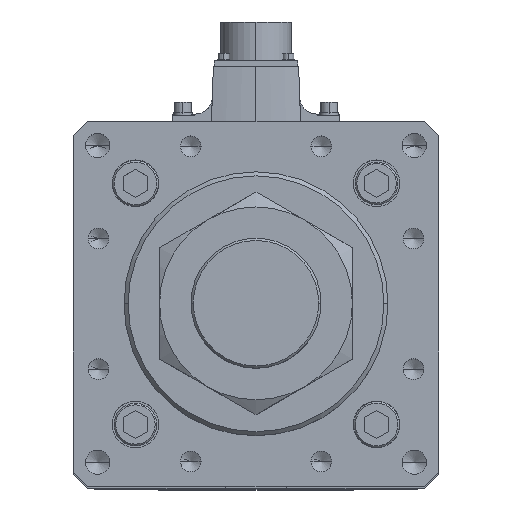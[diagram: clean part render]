
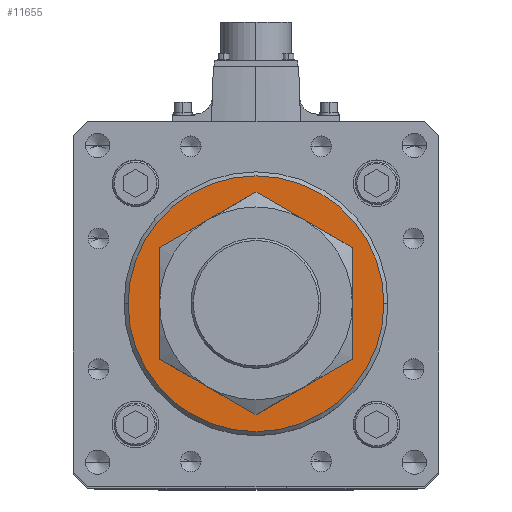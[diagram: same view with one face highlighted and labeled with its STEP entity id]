
A CAD part, top view. The second image highlights one B-rep face of the part: STEP entity #11655.
In plain terms, the highlighted planar face has unit normal (0, 0, 1).
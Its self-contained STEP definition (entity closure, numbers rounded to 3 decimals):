
#136 = CARTESIAN_POINT ( 'NONE',  ( 0., 0., 562. ) ) ;
#196 = ORIENTED_EDGE ( 'NONE', *, *, #28842, .T. ) ;
#221 = CIRCLE ( 'NONE', #55228, 63. ) ;
#3264 = DIRECTION ( 'NONE',  ( 0., 0., 1. ) ) ;
#4342 = ORIENTED_EDGE ( 'NONE', *, *, #46419, .T. ) ;
#5028 = DIRECTION ( 'NONE',  ( 1., 0., 0. ) ) ;
#5589 = DIRECTION ( 'NONE',  ( 0., 0., -1. ) ) ;
#5869 = EDGE_LOOP ( 'NONE', ( #12614, #53184 ) ) ;
#6750 = VERTEX_POINT ( 'NONE', #19655 ) ;
#7751 = CARTESIAN_POINT ( 'NONE',  ( 0., 0., 562. ) ) ;
#8780 = AXIS2_PLACEMENT_3D ( 'NONE', #7751, #3264, #11891 ) ;
#10388 = CIRCLE ( 'NONE', #18129, 40.5 ) ;
#11655 = ADVANCED_FACE ( 'NONE', ( #35168, #43806 ), #43227, .T. ) ;
#11891 = DIRECTION ( 'NONE',  ( 1., 0., 0. ) ) ;
#12614 = ORIENTED_EDGE ( 'NONE', *, *, #31037, .T. ) ;
#14084 = CIRCLE ( 'NONE', #44597, 40.5 ) ;
#17765 = CARTESIAN_POINT ( 'NONE',  ( 0., 0., 562. ) ) ;
#18129 = AXIS2_PLACEMENT_3D ( 'NONE', #39648, #5589, #22955 ) ;
#18323 = CARTESIAN_POINT ( 'NONE',  ( 0., 0., 562. ) ) ;
#19655 = CARTESIAN_POINT ( 'NONE',  ( -63., 0., 562. ) ) ;
#20296 = CARTESIAN_POINT ( 'NONE',  ( -40.5, 0., 562. ) ) ;
#21391 = CARTESIAN_POINT ( 'NONE',  ( 40.5, 0., 562. ) ) ;
#22836 = VERTEX_POINT ( 'NONE', #23837 ) ;
#22955 = DIRECTION ( 'NONE',  ( 1., 0., 0. ) ) ;
#23837 = CARTESIAN_POINT ( 'NONE',  ( 63., 0., 562. ) ) ;
#24325 = VERTEX_POINT ( 'NONE', #20296 ) ;
#24947 = CIRCLE ( 'NONE', #8780, 63. ) ;
#26285 = DIRECTION ( 'NONE',  ( 0., 0., 1. ) ) ;
#27041 = DIRECTION ( 'NONE',  ( 0., 0., 1. ) ) ;
#28311 = EDGE_CURVE ( 'NONE', #24325, #29458, #10388, .T. ) ;
#28842 = EDGE_CURVE ( 'NONE', #22836, #6750, #221, .T. ) ;
#29458 = VERTEX_POINT ( 'NONE', #21391 ) ;
#31037 = EDGE_CURVE ( 'NONE', #29458, #24325, #14084, .T. ) ;
#31384 = EDGE_LOOP ( 'NONE', ( #4342, #196 ) ) ;
#33372 = DIRECTION ( 'NONE',  ( 0., 0., -1. ) ) ;
#35168 = FACE_BOUND ( 'NONE', #5869, .T. ) ;
#39648 = CARTESIAN_POINT ( 'NONE',  ( 0., 0., 562. ) ) ;
#40022 = DIRECTION ( 'NONE',  ( 1., 0., 0. ) ) ;
#43227 = PLANE ( 'NONE',  #43447 ) ;
#43447 = AXIS2_PLACEMENT_3D ( 'NONE', #17765, #26285, #5028 ) ;
#43806 = FACE_OUTER_BOUND ( 'NONE', #31384, .T. ) ;
#44597 = AXIS2_PLACEMENT_3D ( 'NONE', #136, #33372, #55140 ) ;
#46419 = EDGE_CURVE ( 'NONE', #6750, #22836, #24947, .T. ) ;
#53184 = ORIENTED_EDGE ( 'NONE', *, *, #28311, .T. ) ;
#55140 = DIRECTION ( 'NONE',  ( 1., 0., 0. ) ) ;
#55228 = AXIS2_PLACEMENT_3D ( 'NONE', #18323, #27041, #40022 ) ;
